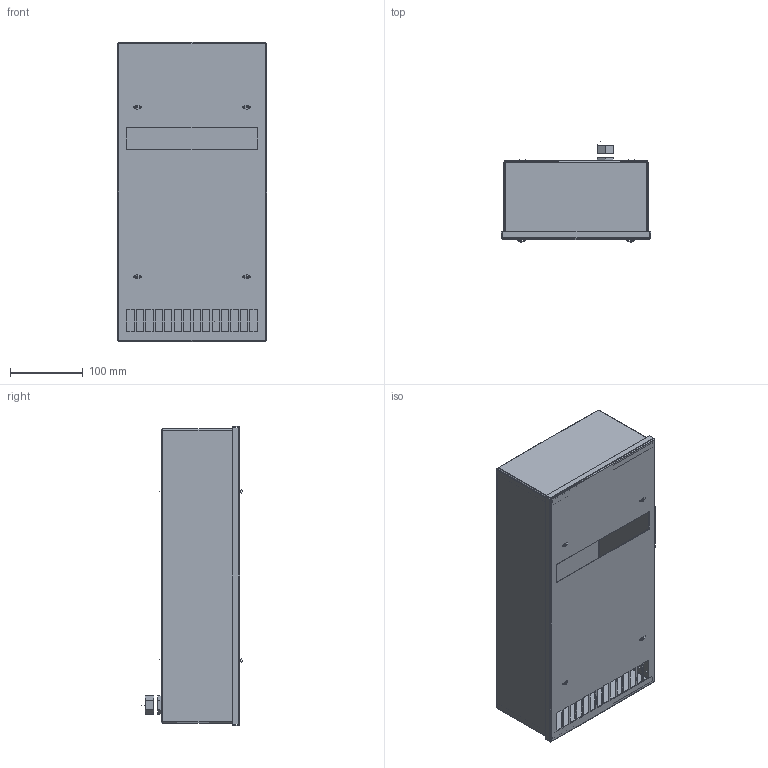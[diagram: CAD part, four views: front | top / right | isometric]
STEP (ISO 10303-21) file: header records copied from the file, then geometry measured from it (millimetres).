
FILE_DESCRIPTION(/* description */ (''),/* implementation_level */ '2;1');
FILE_NAME(/* name */ 'VAX016',/* time_stamp */ '2023-09-07T12:20:42+02:00',/* author */ (''),/* organization */ (''),/* preprocessor_version */ 'ST-DEVELOPER v16.5',/* originating_system */ '',/* authorisation */ '');
FILE_SCHEMA (('AUTOMOTIVE_DESIGN'));
Length unit declared in the file: millimetre
Products named in the file (1): Document
Bounding box: 205 x 138.12 x 411 mm (x, y, z)
Volume: 218222.5 mm3; surface area: 589793.4 mm2
Topology: 13 solids, 15 shells, 326 faces, 835 edges, 523 vertices
Faces by surface type: plane 252, bspline 74
Entity records: 10164 total; most frequent: CARTESIAN_POINT 4297, ORIENTED_EDGE 1649, EDGE_CURVE 829, B_SPLINE_CURVE_WITH_KNOTS 689, VERTEX_POINT 522, EDGE_LOOP 418, ADVANCED_FACE 326, FACE_OUTER_BOUND 326
